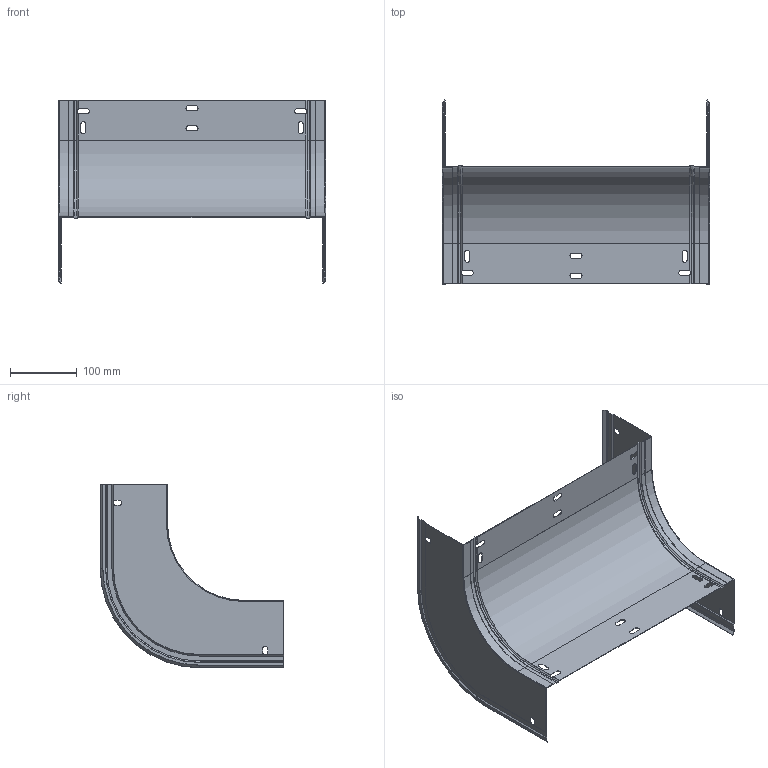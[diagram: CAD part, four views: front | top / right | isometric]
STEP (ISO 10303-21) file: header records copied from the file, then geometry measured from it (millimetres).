
FILE_DESCRIPTION (( 'STEP AP203' ), '1' );
FILE_NAME ('ERE_CONVEXA 400x100.step', '2023-07-27T18:49:40', ( '' ), ( '' ), 'SwSTEP 2.0', 'SolidWorks 2022', '' );
FILE_SCHEMA (( 'CONFIG_CONTROL_DESIGN' ));
Length unit declared in the file: millimetre
Products named in the file (3): ERE_CONVEXA 400x100; ERE_LATERAL CX_100; ERE_BASE CX_400
Assembly tree (3 placements, depth 2):
  ERE_CONVEXA 400x100
    ERE_BASE CX_400
    ERE_LATERAL CX_100  x2
Bounding box: 400 x 275.2 x 275.2 mm (x, y, z)
Volume: 173612.6 mm3; surface area: 437341.2 mm2
Topology: 3 solids, 3 shells, 232 faces, 632 edges, 394 vertices
Faces by surface type: plane 142, cylinder 64, cone 22, torus 4
Entity records: 5896 total; most frequent: CARTESIAN_POINT 1008, ORIENTED_EDGE 966, DIRECTION 957, EDGE_CURVE 483, VECTOR 343, LINE 343, AXIS2_PLACEMENT_3D 307, VERTEX_POINT 302
